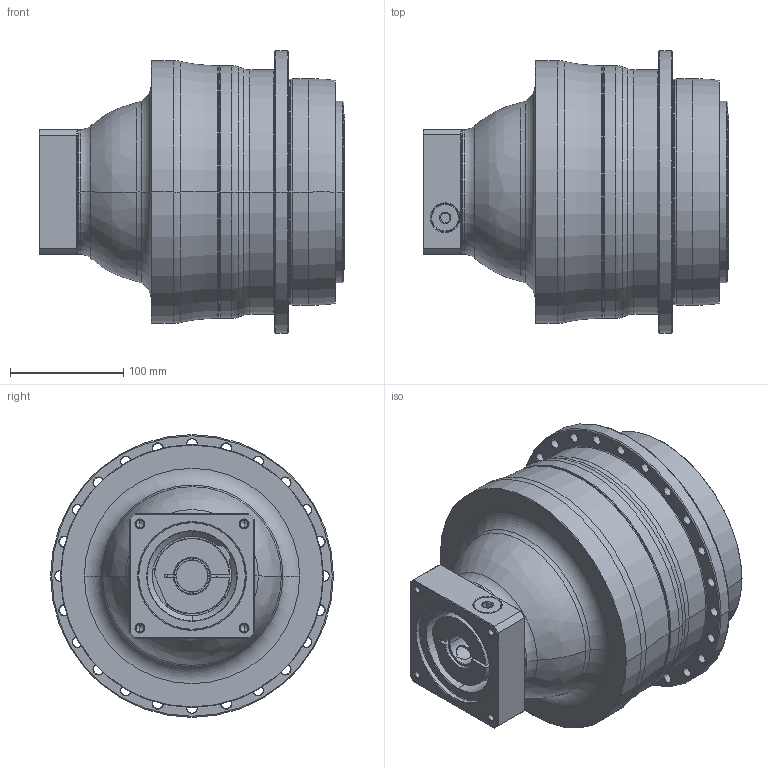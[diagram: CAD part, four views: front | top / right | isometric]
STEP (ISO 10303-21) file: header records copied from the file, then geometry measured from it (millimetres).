
FILE_DESCRIPTION((''),'2;1');
FILE_NAME('AP200_3ST_28-P0409610201_ASM','2018-06-06T',('d01226'),(''),'PRO/ENGINEER BY PARAMETRIC TECHNOLOGY CORPORATION, 2008410','PRO/ENGINEER BY PARAMETRIC TECHNOLOGY CORPORATION, 2008410','');
FILE_SCHEMA(('CONFIG_CONTROL_DESIGN'));
Length unit declared in the file: millimetre
Products named in the file (9): P0278601003; P0359601103; P1366600201; P0503600010; P0912452001; P1211600001; P0409610201; 21711418017; AP200_3ST_28-P0409610201_ASM
Assembly tree (8 placements, depth 2):
  AP200_3ST_28-P0409610201_ASM
    P0278601003
    P0359601103
    P1366600201
    P0503600010
    P0912452001
    P1211600001
    P0409610201
    21711418017
Bounding box: 270 x 249.5 x 249.5 mm (x, y, z)
Volume: 7435742 mm3; surface area: 507942.8 mm2
Topology: 9 solids, 34 shells, 639 faces, 1537 edges, 950 vertices
Faces by surface type: cylinder 265, cone 177, plane 106, torus 75, bspline 16
Entity records: 23944 total; most frequent: CARTESIAN_POINT 8276, DIRECTION 3597, ORIENTED_EDGE 2956, AXIS2_PLACEMENT_3D 1545, EDGE_CURVE 1529, VERTEX_POINT 950, CIRCLE 895, EDGE_LOOP 775
